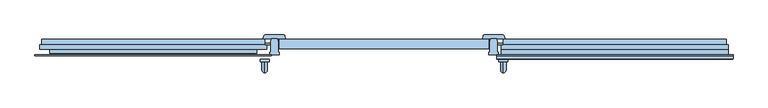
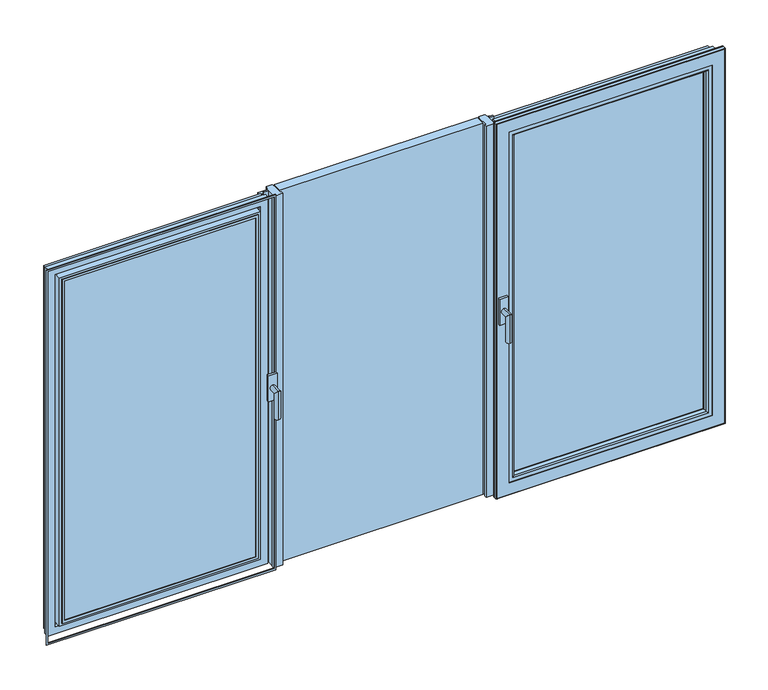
"""IFC4 building model written with IfcOpenShell, lengths in millimetres: window geometry, BZ1_Windows_Opening-Hinge_S9000_Three-Piece-Window-Turn-Tilt : Windows_Opening-Hinge_S9000_Three-Piece-Window-Turn-Tilt."""

from ifc_helpers import new_model, si_unit, frame, origin, place, context, project, spatial, polyline, circle_curve, ellipse_curve, outline, extrude, source, transform, mapped, element, save
from ifc_brep_helpers import plane_surface, cylinder_surface, advanced_brep


def window_99bb7202(model_context):
    return source(origin(), model_context, "Body", "SolidModel", [
        advanced_brep(
        [(495.3666667, -128.5, 1781.5), (495.3666667, -128.5, 1758.5), (495.3666667, -175.0, 1781.5), (495.3666667, -152.0, 1758.5), (495.3666667, -175.0, 1653.0), (495.3666667, -152.0, 1653.0)],
        [
            (0, 1, circle_curve(frame((495.3666667, -128.5, 1770.0), z_axis=(0.0, 1.0, 0.0), x_axis=(0.0, 0.0, -1.0)), 11.5)),
            (1, 0, circle_curve(frame((495.3666667, -128.5, 1770.0), z_axis=(0.0, 1.0, 0.0), x_axis=(0.0, 0.0, -1.0)), 11.5)),
            (0, 2),
            (2, 3, ellipse_curve(frame((495.3666667, -163.5, 1770.0), z_axis=(0.0, 0.7071067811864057, 0.7071067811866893), x_axis=(0.0, 0.7071067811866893, -0.7071067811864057)), 16.263456, 11.5)),
            (3, 1),
            (3, 2, ellipse_curve(frame((495.3666667, -163.5, 1770.0), z_axis=(0.0, 0.7071067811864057, 0.7071067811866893), x_axis=(0.0, 0.7071067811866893, -0.7071067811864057)), 16.263456, 11.5)),
            (4, 5, circle_curve(frame((495.3666667, -163.5, 1653.0), z_axis=(0.0, 0.0, -1.0), x_axis=(0.0, 1.0, 0.0)), 11.5)),
            (5, 4, circle_curve(frame((495.3666667, -163.5, 1653.0), z_axis=(0.0, 0.0, -1.0), x_axis=(0.0, 1.0, 0.0)), 11.5)),
            (2, 4),
            (5, 3),
        ],
        [
            plane_surface(frame((495.3666667, -128.5, 1770.0), z_axis=(0.0, 1.0, 0.0), x_axis=(1.0, 0.0, 0.0))),
            cylinder_surface(frame((495.3666667, -128.5, 1770.0), z_axis=(0.0, 1.0, 0.0), x_axis=(0.0, 0.0, -1.0)), 11.5),
            plane_surface(frame((495.3666667, -163.5, 1653.0), z_axis=(0.0, 0.0, -1.0), x_axis=(1.0, 0.0, 0.0))),
            cylinder_surface(frame((495.3666667, -163.5, 1770.0), z_axis=(0.0, 0.0, 1.0), x_axis=(0.0, 1.0, 0.0)), 11.5),
        ],
        [
            (0, [[1, 2]]),
            (1, [[-1, 3, 4, 5]]),
            (1, [[-2, -5, 6, -3]]),
            (2, [[7, 8]]),
            (3, [[-4, 9, -8, 10]]),
            (3, [[-6, -10, -7, -9]]),
        ],
    ),
        extrude(outline(polyline([(513.8666667, -118.5), (513.8666667, -128.5), (476.8666667, -128.5), (476.8666667, -118.5), (513.8666667, -118.5)])), frame((0.0, 0.0, 1711.0), z_axis=(0.0, 0.0, 1.0), x_axis=(1.0, 0.0, 0.0)), (0.0, 0.0, 1.0), 118.0),
        advanced_brep(
        [(-495.4, -128.5, 1781.5), (-495.4, -128.5, 1758.5), (-495.4, -175.0, 1781.5), (-495.4, -152.0, 1758.5), (-495.4, -175.0, 1653.0), (-495.4, -152.0, 1653.0)],
        [
            (0, 1, circle_curve(frame((-495.4, -128.5, 1770.0), z_axis=(0.0, 1.0, 0.0), x_axis=(0.0, 0.0, -1.0)), 11.5)),
            (1, 0, circle_curve(frame((-495.4, -128.5, 1770.0), z_axis=(0.0, 1.0, 0.0), x_axis=(0.0, 0.0, -1.0)), 11.5)),
            (0, 2),
            (2, 3, ellipse_curve(frame((-495.4, -163.5, 1770.0), z_axis=(0.0, 0.7071067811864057, 0.7071067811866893), x_axis=(0.0, 0.7071067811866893, -0.7071067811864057)), 16.263456, 11.5)),
            (3, 1),
            (3, 2, ellipse_curve(frame((-495.4, -163.5, 1770.0), z_axis=(0.0, 0.7071067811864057, 0.7071067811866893), x_axis=(0.0, 0.7071067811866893, -0.7071067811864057)), 16.263456, 11.5)),
            (4, 5, circle_curve(frame((-495.4, -163.5, 1653.0), z_axis=(0.0, 0.0, -1.0), x_axis=(0.0, 1.0, 0.0)), 11.5)),
            (5, 4, circle_curve(frame((-495.4, -163.5, 1653.0), z_axis=(0.0, 0.0, -1.0), x_axis=(0.0, 1.0, 0.0)), 11.5)),
            (2, 4),
            (5, 3),
        ],
        [
            plane_surface(frame((-495.4, -128.5, 1770.0), z_axis=(0.0, 1.0, 0.0), x_axis=(1.0, 0.0, 0.0))),
            cylinder_surface(frame((-495.4, -128.5, 1770.0), z_axis=(0.0, 1.0, 0.0), x_axis=(0.0, 0.0, -1.0)), 11.5),
            plane_surface(frame((-495.4, -163.5, 1653.0), z_axis=(0.0, 0.0, -1.0), x_axis=(1.0, 0.0, 0.0))),
            cylinder_surface(frame((-495.4, -163.5, 1770.0), z_axis=(0.0, 0.0, 1.0), x_axis=(0.0, 1.0, 0.0)), 11.5),
        ],
        [
            (0, [[1, 2]]),
            (1, [[-1, 3, 4, 5]]),
            (1, [[-2, -5, 6, -3]]),
            (2, [[7, 8]]),
            (3, [[-4, 9, -8, 10]]),
            (3, [[-6, -10, -7, -9]]),
        ],
    ),
        extrude(outline(polyline([(-476.9, -118.5), (-476.9, -128.5), (-513.9, -128.5), (-513.9, -118.5), (-476.9, -118.5)])), frame((0.0, 0.0, 1711.0), z_axis=(0.0, 0.0, 1.0), x_axis=(1.0, 0.0, 0.0)), (0.0, 0.0, 1.0), 118.0),
        extrude(outline(polyline([(-434.4, -36.0), (434.4, -36.0), (434.4, -76.0), (-434.4, -76.0), (-434.4, -36.0)])), frame((0.0, 0.0, 928.0), z_axis=(0.0, 0.0, 1.0), x_axis=(1.0, 0.0, 0.0)), (0.0, 0.0, 1.0), 1684.0),
        extrude(outline(polyline([(439.4, -46.5113286), (442.3781998, -32.5), (468.221801, -32.5), (471.2000009, -46.5113286), (471.2000009, -88.75), (475.3000009, -88.75), (475.3000009, -100.0), (435.3, -100.0), (435.3, -88.75), (439.4, -88.75), (439.4, -46.5113286)])), frame((0.0, 0.0, 928.0), z_axis=(0.0, 0.0, 1.0), x_axis=(1.0, 0.0, 0.0)), (0.0, 0.0, 1.0), 1684.0),
        advanced_brep(
        [(492.9521751, -17.5, 954.0), (498.7477301, -21.9470857, 954.0), (501.3000009, -31.47229, 954.0), (501.3, -32.5, 954.0), (409.3, -32.5, 954.0), (409.3, -31.47229, 954.0), (411.8522708, -21.9470857, 954.0), (417.6478258, -17.5, 954.0), (492.9521751, -17.5, 2586.0), (417.6478258, -17.5, 2586.0), (411.8522708, -21.9470857, 2586.0), (409.3, -31.47229, 2586.0), (409.3, -32.5, 2586.0), (501.3000009, -32.5, 2586.0), (501.3, -31.47229, 2586.0), (498.7477301, -21.9470857, 2586.0)],
        [
            (0, 1, circle_curve(frame((492.9521751, -23.5, 954.0), z_axis=(0.0, 0.0, -1.0), x_axis=(0.9659258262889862, 0.2588190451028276, 0.0)), 6.0)),
            (1, 2),
            (2, 3),
            (3, 4),
            (4, 5),
            (5, 6),
            (6, 7, circle_curve(frame((417.6478258, -23.5, 954.0), z_axis=(0.0, 0.0, -1.0), x_axis=(0.0, 1.0, 0.0)), 6.0)),
            (7, 0),
            (8, 9),
            (9, 10, circle_curve(frame((417.6478258, -23.5, 2586.0), z_axis=(0.0, 0.0, 1.0), x_axis=(0.0, 1.0, 0.0)), 6.0)),
            (10, 11),
            (11, 12),
            (12, 13),
            (13, 14),
            (14, 15),
            (15, 8, circle_curve(frame((492.9521751, -23.5, 2586.0), z_axis=(0.0, 0.0, 1.0), x_axis=(0.9659258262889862, 0.2588190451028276, 0.0)), 6.0)),
            (0, 8),
            (15, 1),
            (14, 2),
            (13, 3),
            (12, 4),
            (11, 5),
            (10, 6),
            (9, 7),
        ],
        [
            plane_surface(frame((455.3, -100.0, 954.0), z_axis=(0.0, 0.0, -1.0), x_axis=(1.0, 0.0, 0.0))),
            plane_surface(frame((455.3, -100.0, 2586.0), z_axis=(0.0, 0.0, 1.0), x_axis=(1.0, 0.0, 0.0))),
            cylinder_surface(frame((492.9521751, -23.5, 954.0), z_axis=(0.0, 0.0, -1.0000000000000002), x_axis=(0.9659258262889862, 0.2588190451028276, 0.0)), 6.0),
            plane_surface(frame((498.7477301, -21.9470857, 954.0), z_axis=(0.9659258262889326, 0.25881904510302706, 0.0), x_axis=(0.0, 0.0, 1.0))),
            plane_surface(frame((501.3, -31.47229, 954.0), z_axis=(1.0, 0.0, 0.0), x_axis=(0.0, 0.0, 1.0))),
            plane_surface(frame((417.1104076, -32.5, 954.0), z_axis=(0.0, -1.0, 0.0), x_axis=(0.0, 0.0, 1.0))),
            plane_surface(frame((409.3, -32.5, 954.0), z_axis=(-1.0, 0.0, 0.0), x_axis=(0.0, 0.0, 1.0))),
            plane_surface(frame((409.3, -31.47229, 954.0), z_axis=(-0.9659258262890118, 0.25881904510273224, 0.0), x_axis=(0.0, 0.0, 1.0))),
            cylinder_surface(frame((417.6478258, -23.5, 954.0), z_axis=(0.0, 0.0, -1.0), x_axis=(0.0, 1.0, 0.0)), 6.0),
            plane_surface(frame((417.6478258, -17.5, 954.0), z_axis=(0.0, 1.0, 0.0), x_axis=(0.0, 0.0, 1.0))),
        ],
        [
            (0, [[1, 2, 3, 4, 5, 6, 7, 8]]),
            (1, [[9, 10, 11, 12, 13, 14, 15, 16]]),
            (2, [[-1, 17, -16, 18]]),
            (3, [[-2, -18, -15, 19]]),
            (4, [[-3, -19, -14, 20]]),
            (5, [[-20, -13, 21, -4]]),
            (6, [[-5, -21, -12, 22]]),
            (7, [[-6, -22, -11, 23]]),
            (8, [[-7, -23, -10, 24]]),
            (9, [[-8, -24, -9, -17]]),
        ],
    ),
        extrude(outline(polyline([(-471.2, -46.5113286), (-468.2218002, -32.5), (-442.378199, -32.5), (-439.3999991, -46.5113286), (-439.3999991, -88.75), (-435.2999991, -88.75), (-435.2999991, -100.0), (-475.3, -100.0), (-475.3, -88.75), (-471.2, -88.75), (-471.2, -46.5113286)])), frame((0.0, 0.0, 928.0), z_axis=(0.0, 0.0, 1.0), x_axis=(1.0, 0.0, 0.0)), (0.0, 0.0, 1.0), 1684.0),
        advanced_brep(
        [(-417.6478249, -17.5, 954.0), (-411.8522699, -21.9470857, 954.0), (-409.2999991, -31.47229, 954.0), (-409.3, -32.5, 954.0), (-501.3, -32.5, 954.0), (-501.3, -31.47229, 954.0), (-498.7477292, -21.9470857, 954.0), (-492.9521742, -17.5, 954.0), (-417.6478249, -17.5, 2586.0), (-492.9521742, -17.5, 2586.0), (-498.7477292, -21.9470857, 2586.0), (-501.3, -31.47229, 2586.0), (-501.3, -32.5, 2586.0), (-409.2999991, -32.5, 2586.0), (-409.3, -31.47229, 2586.0), (-411.8522699, -21.9470857, 2586.0)],
        [
            (0, 1, circle_curve(frame((-417.6478249, -23.5, 954.0), z_axis=(0.0, 0.0, -1.0), x_axis=(0.9659258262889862, 0.2588190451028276, 0.0)), 6.0)),
            (1, 2),
            (2, 3),
            (3, 4),
            (4, 5),
            (5, 6),
            (6, 7, circle_curve(frame((-492.9521742, -23.5, 954.0), z_axis=(0.0, 0.0, -1.0), x_axis=(0.0, 1.0, 0.0)), 6.0)),
            (7, 0),
            (8, 9),
            (9, 10, circle_curve(frame((-492.9521742, -23.5, 2586.0), z_axis=(0.0, 0.0, 1.0), x_axis=(0.0, 1.0, 0.0)), 6.0)),
            (10, 11),
            (11, 12),
            (12, 13),
            (13, 14),
            (14, 15),
            (15, 8, circle_curve(frame((-417.6478249, -23.5, 2586.0), z_axis=(0.0, 0.0, 1.0), x_axis=(0.9659258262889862, 0.2588190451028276, 0.0)), 6.0)),
            (0, 8),
            (15, 1),
            (14, 2),
            (13, 3),
            (12, 4),
            (11, 5),
            (10, 6),
            (9, 7),
        ],
        [
            plane_surface(frame((-455.3, -100.0, 954.0), z_axis=(0.0, 0.0, -1.0), x_axis=(1.0, 0.0, 0.0))),
            plane_surface(frame((-455.3, -100.0, 2586.0), z_axis=(0.0, 0.0, 1.0), x_axis=(1.0, 0.0, 0.0))),
            cylinder_surface(frame((-417.6478249, -23.5, 954.0), z_axis=(0.0, 0.0, -1.0000000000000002), x_axis=(0.9659258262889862, 0.2588190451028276, 0.0)), 6.0),
            plane_surface(frame((-411.8522699, -21.9470857, 954.0), z_axis=(0.9659258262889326, 0.25881904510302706, 0.0), x_axis=(0.0, 0.0, 1.0))),
            plane_surface(frame((-409.3, -31.47229, 954.0), z_axis=(1.0, 0.0, 0.0), x_axis=(0.0, 0.0, 1.0))),
            plane_surface(frame((-493.4895924, -32.5, 954.0), z_axis=(0.0, -1.0, 0.0), x_axis=(0.0, 0.0, 1.0))),
            plane_surface(frame((-501.3, -32.5, 954.0), z_axis=(-1.0, 0.0, 0.0), x_axis=(0.0, 0.0, 1.0))),
            plane_surface(frame((-501.3, -31.47229, 954.0), z_axis=(-0.9659258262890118, 0.25881904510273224, 0.0), x_axis=(0.0, 0.0, 1.0))),
            cylinder_surface(frame((-492.9521742, -23.5, 954.0), z_axis=(0.0, 0.0, -1.0), x_axis=(0.0, 1.0, 0.0)), 6.0),
            plane_surface(frame((-492.9521742, -17.5, 954.0), z_axis=(0.0, 1.0, 0.0), x_axis=(0.0, 0.0, 1.0))),
        ],
        [
            (0, [[1, 2, 3, 4, 5, 6, 7, 8]]),
            (1, [[9, 10, 11, 12, 13, 14, 15, 16]]),
            (2, [[-1, 17, -16, 18]]),
            (3, [[-2, -18, -15, 19]]),
            (4, [[-3, -19, -14, 20]]),
            (5, [[-20, -13, 21, -4]]),
            (6, [[-5, -21, -12, 22]]),
            (7, [[-6, -22, -11, 23]]),
            (8, [[-7, -23, -10, 24]]),
            (9, [[-8, -24, -9, -17]]),
        ],
    ),
        extrude(outline(polyline([(492.3000009, -52.2), (492.3000009, -57.5), (471.2000009, -57.5), (471.2000009, -52.2), (492.3000009, -52.2)])), frame((0.0, 0.0, 928.0), z_axis=(0.0, 0.0, 1.0), x_axis=(1.0, 0.0, 0.0)), (0.0, 0.0, 1.0), 1684.0),
        extrude(outline(polyline([(-492.3, -52.2), (-471.2, -52.2), (-471.2, -57.5), (-492.3, -57.5), (-492.3, -52.2)])), frame((0.0, 0.0, 928.0), z_axis=(0.0, 0.0, 1.0), x_axis=(1.0, 0.0, 0.0)), (0.0, 0.0, 1.0), 1684.0),
        extrude(outline(polyline([(417.1, -36.0), (409.3, -36.0), (409.3, -32.5), (417.1, -32.5), (417.1, -36.0)])), frame((0.0, 0.0, 954.0), z_axis=(0.0, 0.0, 1.0), x_axis=(1.0, 0.0, 0.0)), (0.0, 0.0, 1.0), 1632.0),
        extrude(outline(polyline([(-417.0999991, -36.0), (-417.0999991, -32.5), (-409.2999991, -32.5), (-409.2999991, -36.0), (-417.0999991, -36.0)])), frame((0.0, 0.0, 954.0), z_axis=(0.0, 0.0, 1.0), x_axis=(1.0, 0.0, 0.0)), (0.0, 0.0, 1.0), 1632.0),
        extrude(outline(polyline([(528.4, -54.0), (1389.0, -54.0), (1389.0, -94.0), (528.4, -94.0), (528.4, -54.0)])), frame((0.0, 0.0, 980.9999996), z_axis=(0.0, 0.0, 1.0), x_axis=(1.0, 0.0, 0.0)), (0.0, 0.0, 1.0), 1578.0),
        extrude(outline(polyline([(2545.1999996, 1375.2), (2545.1999996, 542.2), (994.7999996, 542.2), (994.7999996, 1375.2), (2545.1999996, 1375.2)]), holes=[polyline([(1001.9999996, 1368.0), (1001.9999996, 549.4), (2537.9999996, 549.4), (2537.9999996, 1368.0), (1001.9999996, 1368.0)])]), frame((0.0, -54.0, 0.0), z_axis=(0.0, 1.0, 0.0), x_axis=(0.0, 0.0, 1.0)), (0.0, 0.0, 1.0), 3.0),
        extrude(outline(polyline([(2549.5012168, 1379.5012172), (2549.5012168, 537.8987828), (990.4987824, 537.8987828), (990.4987824, 1379.5012172), (2549.5012168, 1379.5012172)]), holes=[polyline([(1001.9987824, 1368.0012172), (1001.9987824, 549.3987828), (2538.0012168, 549.3987828), (2538.0012168, 1368.0012172), (1001.9987824, 1368.0012172)])]), frame((0.0, -96.5, 0.0), z_axis=(0.0, 1.0, 0.0), x_axis=(0.0, 0.0, 1.0)), (0.0, 0.0, 1.0), 2.5),
        extrude(outline(polyline([(919.9999996, 467.4), (919.9999996, 1450.0), (2619.9999996, 1450.0), (2619.9999996, 467.4), (919.9999996, 467.4)]), holes=[polyline([(2611.9999996, 475.4), (2611.9999996, 1442.0), (927.9999996, 1442.0), (927.9999996, 475.4), (2611.9999996, 475.4)])]), frame((0.0, -103.5, 0.0), z_axis=(0.0, 1.0, 0.0), x_axis=(0.0, 0.0, 1.0)), (0.0, 0.0, 1.0), 3.5),
        advanced_brep(
        [(541.0543275, -36.0, 2546.3456721), (546.8498824, -40.4470857, 2540.5501171), (546.8498824, -40.4470857, 999.449882), (541.0543275, -36.0, 993.6543271), (495.4, -57.5, 2591.9999996), (495.4, -36.0, 2591.9999996), (495.4, -36.0, 947.9999996), (495.4, -57.5, 947.9999996), (487.4, -77.5, 2599.9999996), (487.4, -57.5, 2599.9999996), (487.4, -57.5, 939.9999996), (487.4, -77.5, 939.9999996), (519.3, -65.0001206, 2568.0999996), (519.3, -77.5, 2568.0999996), (519.3, -77.5, 971.8999996), (519.3, -65.0001206, 971.8999996), (516.3241825, -51.0, 2571.0758171), (516.3241825, -51.0, 968.9241821), (549.4, -49.964254, 2537.9999996), (549.4, -51.0, 2537.9999996), (549.4, -51.0, 1001.9999996), (549.4, -49.964254, 1001.9999996), (1370.5501176, -40.4470857, 999.449882), (1376.3456725, -36.0, 993.6543271), (1422.0, -36.0, 947.9999996), (1422.0, -57.5, 947.9999996), (1430.0, -57.5, 939.9999996), (1430.0, -77.5, 939.9999996), (1398.1, -77.5, 971.8999996), (1398.1, -65.0001206, 971.8999996), (1401.0758175, -51.0, 968.9241821), (1368.0, -51.0, 1001.9999996), (1368.0, -49.964254, 1001.9999996), (1370.5501176, -40.4470857, 2540.5501171), (1376.3456725, -36.0, 2546.3456721), (1422.0, -36.0, 2591.9999996), (1422.0, -57.5, 2591.9999996), (1430.0, -57.5, 2599.9999996), (1430.0, -77.5, 2599.9999996), (1398.1, -77.5, 2568.0999996), (1398.1, -65.0001206, 2568.0999996), (1401.0758175, -51.0, 2571.0758171), (1368.0, -51.0, 2537.9999996), (1368.0, -49.964254, 2537.9999996)],
        [
            (0, 1, ellipse_curve(frame((541.0543275, -42.0, 2546.3456721), z_axis=(-0.7071067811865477, 0.0, -0.7071067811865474), x_axis=(-0.7071067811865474, 0.0, 0.7071067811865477)), 8.4852814, 6.0)),
            (1, 2),
            (2, 3, ellipse_curve(frame((541.0543275, -42.0, 993.6543271), z_axis=(-0.7071067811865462, 0.0, 0.707106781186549), x_axis=(0.7071067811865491, 0.0, 0.7071067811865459)), 8.4852814, 6.0)),
            (3, 0),
            (4, 5),
            (5, 6),
            (6, 7),
            (7, 4),
            (8, 9),
            (9, 10),
            (10, 11),
            (11, 8),
            (12, 13),
            (13, 14),
            (14, 15),
            (15, 12),
            (16, 12),
            (15, 17),
            (17, 16),
            (18, 19),
            (19, 20),
            (20, 21),
            (21, 18),
            (1, 18),
            (21, 2),
            (2, 22),
            (22, 23, ellipse_curve(frame((1376.3456725, -42.0, 993.6543271), z_axis=(-0.7071067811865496, 0.0, -0.7071067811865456), x_axis=(-0.7071067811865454, 0.0, 0.7071067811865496)), 8.4852814, 6.0)),
            (23, 3),
            (6, 24),
            (24, 25),
            (25, 7),
            (10, 26),
            (26, 27),
            (27, 11),
            (14, 28),
            (28, 29),
            (29, 15),
            (29, 30),
            (30, 17),
            (20, 31),
            (31, 32),
            (32, 21),
            (32, 22),
            (22, 33),
            (33, 34, ellipse_curve(frame((1376.3456725, -42.0, 2546.3456721), z_axis=(0.7071067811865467, 0.0, -0.7071067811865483), x_axis=(-0.7071067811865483, 0.0, -0.7071067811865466)), 8.4852814, 6.0)),
            (34, 23),
            (24, 35),
            (35, 36),
            (36, 25),
            (26, 37),
            (37, 38),
            (38, 27),
            (28, 39),
            (39, 40),
            (40, 29),
            (40, 41),
            (41, 30),
            (31, 42),
            (42, 43),
            (43, 32),
            (43, 33),
            (33, 1),
            (0, 34),
            (5, 35),
            (4, 36),
            (9, 37),
            (8, 38),
            (13, 39),
            (12, 40),
            (16, 41),
            (19, 42),
            (18, 43),
        ],
        [
            cylinder_surface(frame((541.0543275, -42.0, 2619.9999996), z_axis=(0.0, 0.0, 1.0), x_axis=(0.0, 1.0, 0.0)), 6.0),
            plane_surface(frame((495.4, -36.0, 2591.9999996), z_axis=(-1.0, 0.0, 0.0), x_axis=(0.0, 0.0, -1.0))),
            plane_surface(frame((487.4, -57.5, 2599.9999996), z_axis=(-1.0, 0.0, 0.0), x_axis=(0.0, 0.0, -1.0))),
            plane_surface(frame((519.3, -77.5, 2568.0999996), z_axis=(1.0, 0.0, 0.0), x_axis=(0.0, 0.0, -1.0))),
            plane_surface(frame((519.3, -65.0001206, 2568.0999996), z_axis=(0.9781476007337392, 0.20791169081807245, 0.0), x_axis=(0.0, 0.0, -1.0))),
            plane_surface(frame((549.4, -51.0, 2537.9999996), z_axis=(1.0, 0.0, 0.0), x_axis=(0.0, 0.0, -1.0))),
            plane_surface(frame((549.4, -49.964254, 2537.9999996), z_axis=(0.9659258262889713, 0.2588190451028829, 0.0), x_axis=(0.0, 0.0, -1.0))),
            cylinder_surface(frame((467.4, -42.0, 993.6543271), z_axis=(-1.0, 0.0, 0.0), x_axis=(0.0, 1.0, 0.0)), 6.0),
            plane_surface(frame((495.4, -36.0, 947.9999996), z_axis=(0.0, 0.0, -1.0), x_axis=(1.0, 0.0, 0.0))),
            plane_surface(frame((487.4, -57.5, 939.9999996), z_axis=(0.0, 0.0, -1.0), x_axis=(1.0, 0.0, 0.0))),
            plane_surface(frame((519.3, -77.5, 971.8999996), z_axis=(0.0, 0.0, 1.0), x_axis=(1.0, 0.0, 0.0))),
            plane_surface(frame((519.3, -65.0001206, 971.8999996), z_axis=(0.0, 0.20791169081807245, 0.9781476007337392), x_axis=(1.0, 0.0, 0.0))),
            plane_surface(frame((549.4, -51.0, 1001.9999996), z_axis=(0.0, 0.0, 1.0), x_axis=(1.0, 0.0, 0.0))),
            plane_surface(frame((549.4, -49.964254, 1001.9999996), z_axis=(0.0, 0.2588190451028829, 0.9659258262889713), x_axis=(1.0, 0.0, 0.0))),
            cylinder_surface(frame((1376.3456725, -42.0, 919.9999996), z_axis=(0.0, 0.0, -1.0), x_axis=(0.0, 1.0, 0.0)), 6.0),
            plane_surface(frame((1422.0, -36.0, 947.9999996), z_axis=(1.0, 0.0, 0.0), x_axis=(0.0, 0.0, 1.0))),
            plane_surface(frame((1430.0, -57.5, 939.9999996), z_axis=(1.0, 0.0, 0.0), x_axis=(0.0, 0.0, 1.0))),
            plane_surface(frame((1398.1, -77.5, 971.8999996), z_axis=(-1.0, 0.0, 0.0), x_axis=(0.0, 0.0, 1.0))),
            plane_surface(frame((1398.1, -65.0001206, 971.8999996), z_axis=(-0.9781476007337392, 0.20791169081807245, 0.0), x_axis=(0.0, 0.0, 1.0))),
            plane_surface(frame((1368.0, -51.0, 1001.9999996), z_axis=(-1.0, 0.0, 0.0), x_axis=(0.0, 0.0, 1.0))),
            plane_surface(frame((1368.0, -49.964254, 1001.9999996), z_axis=(-0.9659258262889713, 0.2588190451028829, 0.0), x_axis=(0.0, 0.0, 1.0))),
            cylinder_surface(frame((1450.0, -42.0, 2546.3456721), z_axis=(1.0, 0.0, 0.0), x_axis=(0.0, 1.0, 0.0)), 6.0),
            plane_surface(frame((1376.3456725, -36.0, 2546.3456721), z_axis=(0.0, 1.0, 0.0), x_axis=(-1.0, 0.0, 0.0))),
            plane_surface(frame((1422.0, -36.0, 2591.9999996), z_axis=(0.0, 0.0, 1.0), x_axis=(-1.0, 0.0, 0.0))),
            plane_surface(frame((1422.0, -57.5, 2591.9999996), z_axis=(0.0, 1.0, 0.0), x_axis=(-1.0, 0.0, 0.0))),
            plane_surface(frame((1430.0, -57.5, 2599.9999996), z_axis=(0.0, 0.0, 1.0), x_axis=(-1.0, 0.0, 0.0))),
            plane_surface(frame((1430.0, -77.5, 2599.9999996), z_axis=(0.0, -1.0, 0.0), x_axis=(-1.0, 0.0, 0.0))),
            plane_surface(frame((1398.1, -77.5, 2568.0999996), z_axis=(0.0, 0.0, -1.0), x_axis=(-1.0, 0.0, 0.0))),
            plane_surface(frame((1398.1, -65.0001206, 2568.0999996), z_axis=(0.0, 0.20791169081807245, -0.9781476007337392), x_axis=(-1.0, 0.0, 0.0))),
            plane_surface(frame((1369.0, -51.0, 2538.9999996), z_axis=(0.0, -1.0, 0.0), x_axis=(-1.0, 0.0, 0.0))),
            plane_surface(frame((1368.0, -51.0, 2537.9999996), z_axis=(0.0, 0.0, -1.0), x_axis=(-1.0, 0.0, 0.0))),
            plane_surface(frame((1368.0, -49.964254, 2537.9999996), z_axis=(0.0, 0.2588190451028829, -0.9659258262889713), x_axis=(-1.0, 0.0, 0.0))),
        ],
        [
            (0, [[1, 2, 3, 4]]),
            (1, [[5, 6, 7, 8]]),
            (2, [[9, 10, 11, 12]]),
            (3, [[13, 14, 15, 16]]),
            (4, [[17, -16, 18, 19]]),
            (5, [[20, 21, 22, 23]]),
            (6, [[24, -23, 25, -2]]),
            (7, [[-3, 26, 27, 28]]),
            (8, [[-7, 29, 30, 31]]),
            (9, [[-11, 32, 33, 34]]),
            (10, [[-15, 35, 36, 37]]),
            (11, [[-18, -37, 38, 39]]),
            (12, [[-22, 40, 41, 42]]),
            (13, [[-25, -42, 43, -26]]),
            (14, [[-27, 44, 45, 46]]),
            (15, [[-30, 47, 48, 49]]),
            (16, [[-33, 50, 51, 52]]),
            (17, [[-36, 53, 54, 55]]),
            (18, [[-38, -55, 56, 57]]),
            (19, [[-41, 58, 59, 60]]),
            (20, [[-43, -60, 61, -44]]),
            (21, [[-45, 62, -1, 63]]),
            (22, [[64, -47, -29, -6], [-28, -46, -63, -4]]),
            (23, [[-48, -64, -5, 65]]),
            (24, [[66, -50, -32, -10], [-31, -49, -65, -8]]),
            (25, [[-51, -66, -9, 67]]),
            (26, [[-34, -52, -67, -12], [68, -53, -35, -14]]),
            (27, [[-54, -68, -13, 69]]),
            (28, [[-56, -69, -17, 70]]),
            (29, [[-39, -57, -70, -19], [71, -58, -40, -21]]),
            (30, [[-59, -71, -20, 72]]),
            (31, [[-61, -72, -24, -62]]),
        ],
    ),
        advanced_brep(
        [(523.4, -107.25, 2563.9999996), (523.4, -118.5, 2563.9999996), (523.4, -118.5, 975.9999996), (523.4, -107.25, 975.9999996), (519.3, -77.5, 2568.0999996), (519.3, -107.25, 2568.0999996), (519.3, -107.25, 971.8999996), (519.3, -77.5, 971.8999996), (487.4, -103.5, 2599.9999996), (487.4, -77.5, 2599.9999996), (487.4, -77.5, 939.9999996), (487.4, -103.5, 939.9999996), (467.4, -116.0, 2619.9999996), (467.4, -103.5, 2619.9999996), (467.4, -103.5, 919.9999996), (467.4, -116.0, 919.9999996), (469.9, -118.5, 2617.4999996), (469.9, -118.5, 922.4999996), (1394.0, -118.5, 975.9999996), (1394.0, -107.25, 975.9999996), (1398.1, -107.25, 971.8999996), (1398.1, -77.5, 971.8999996), (1430.0, -77.5, 939.9999996), (1430.0, -103.5, 939.9999996), (1450.0, -103.5, 919.9999996), (1450.0, -116.0, 919.9999996), (1447.5, -118.5, 922.4999996), (1394.0, -118.5, 2563.9999996), (1394.0, -107.25, 2563.9999996), (1398.1, -107.25, 2568.0999996), (1398.1, -77.5, 2568.0999996), (1430.0, -77.5, 2599.9999996), (1430.0, -103.5, 2599.9999996), (1450.0, -103.5, 2619.9999996), (1450.0, -116.0, 2619.9999996), (1447.5, -118.5, 2617.4999996)],
        [
            (0, 1),
            (1, 2),
            (2, 3),
            (3, 0),
            (4, 5),
            (5, 6),
            (6, 7),
            (7, 4),
            (8, 9),
            (9, 10),
            (10, 11),
            (11, 8),
            (12, 13),
            (13, 14),
            (14, 15),
            (15, 12),
            (16, 12, ellipse_curve(frame((469.9, -116.0, 2617.4999996), z_axis=(-0.7071067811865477, 0.0, -0.7071067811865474), x_axis=(-0.7071067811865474, 0.0, 0.7071067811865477)), 3.5355339, 2.5)),
            (15, 17, ellipse_curve(frame((469.9, -116.0, 922.4999996), z_axis=(-0.7071067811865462, 0.0, 0.707106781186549), x_axis=(0.7071067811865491, 0.0, 0.7071067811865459)), 3.5355339, 2.5)),
            (17, 16),
            (2, 18),
            (18, 19),
            (19, 3),
            (6, 20),
            (20, 21),
            (21, 7),
            (10, 22),
            (22, 23),
            (23, 11),
            (14, 24),
            (24, 25),
            (25, 15),
            (25, 26, ellipse_curve(frame((1447.5, -116.0, 922.4999996), z_axis=(-0.7071067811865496, 0.0, -0.7071067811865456), x_axis=(-0.7071067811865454, 0.0, 0.7071067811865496)), 3.5355339, 2.5)),
            (26, 17),
            (18, 27),
            (27, 28),
            (28, 19),
            (20, 29),
            (29, 30),
            (30, 21),
            (22, 31),
            (31, 32),
            (32, 23),
            (24, 33),
            (33, 34),
            (34, 25),
            (34, 35, ellipse_curve(frame((1447.5, -116.0, 2617.4999996), z_axis=(0.7071067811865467, 0.0, -0.7071067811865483), x_axis=(-0.7071067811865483, 0.0, -0.7071067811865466)), 3.5355339, 2.5)),
            (35, 26),
            (35, 16),
            (1, 27),
            (0, 28),
            (5, 29),
            (4, 30),
            (9, 31),
            (8, 32),
            (13, 33),
            (12, 34),
        ],
        [
            plane_surface(frame((523.4, -118.5, 2563.9999996), z_axis=(1.0, 0.0, 0.0), x_axis=(0.0, 0.0, -1.0))),
            plane_surface(frame((519.3, -107.25, 2568.0999996), z_axis=(1.0, 0.0, 0.0), x_axis=(0.0, 0.0, -1.0))),
            plane_surface(frame((487.4, -77.5, 2599.9999996), z_axis=(-1.0, 0.0, 0.0), x_axis=(0.0, 0.0, -1.0))),
            plane_surface(frame((467.4, -103.5, 2619.9999996), z_axis=(-1.0, 0.0, 0.0), x_axis=(0.0, 0.0, -1.0))),
            cylinder_surface(frame((469.9, -116.0, 2619.9999996), z_axis=(0.0, 0.0, 1.0), x_axis=(0.0, -1.0, 0.0)), 2.5),
            plane_surface(frame((523.4, -118.5, 975.9999996), z_axis=(0.0, 0.0, 1.0), x_axis=(1.0, 0.0, 0.0))),
            plane_surface(frame((519.3, -107.25, 971.8999996), z_axis=(0.0, 0.0, 1.0), x_axis=(1.0, 0.0, 0.0))),
            plane_surface(frame((487.4, -77.5, 939.9999996), z_axis=(0.0, 0.0, -1.0), x_axis=(1.0, 0.0, 0.0))),
            plane_surface(frame((467.4, -103.5, 919.9999996), z_axis=(0.0, 0.0, -1.0), x_axis=(1.0, 0.0, 0.0))),
            cylinder_surface(frame((467.4, -116.0, 922.4999996), z_axis=(-1.0, 0.0, 0.0), x_axis=(0.0, -1.0, 0.0)), 2.5),
            plane_surface(frame((1394.0, -118.5, 975.9999996), z_axis=(-1.0, 0.0, 0.0), x_axis=(0.0, 0.0, 1.0))),
            plane_surface(frame((1398.1, -107.25, 971.8999996), z_axis=(-1.0, 0.0, 0.0), x_axis=(0.0, 0.0, 1.0))),
            plane_surface(frame((1430.0, -77.5, 939.9999996), z_axis=(1.0, 0.0, 0.0), x_axis=(0.0, 0.0, 1.0))),
            plane_surface(frame((1450.0, -103.5, 919.9999996), z_axis=(1.0, 0.0, 0.0), x_axis=(0.0, 0.0, 1.0))),
            cylinder_surface(frame((1447.5, -116.0, 919.9999996), z_axis=(0.0, 0.0, -1.0), x_axis=(0.0, -1.0, 0.0)), 2.5),
            plane_surface(frame((1447.5, -118.5, 2617.4999996), z_axis=(0.0, -1.0, 0.0), x_axis=(-1.0, 0.0, 0.0))),
            plane_surface(frame((1394.0, -118.5, 2563.9999996), z_axis=(0.0, 0.0, -1.0), x_axis=(-1.0, 0.0, 0.0))),
            plane_surface(frame((1394.0, -107.25, 2563.9999996), z_axis=(0.0, 1.0, 0.0), x_axis=(-1.0, 0.0, 0.0))),
            plane_surface(frame((1398.1, -107.25, 2568.0999996), z_axis=(0.0, 0.0, -1.0), x_axis=(-1.0, 0.0, 0.0))),
            plane_surface(frame((1398.1, -77.5, 2568.0999996), z_axis=(0.0, 1.0, 0.0), x_axis=(-1.0, 0.0, 0.0))),
            plane_surface(frame((1430.0, -77.5, 2599.9999996), z_axis=(0.0, 0.0, 1.0), x_axis=(-1.0, 0.0, 0.0))),
            plane_surface(frame((1449.0, -103.5, 2618.9999996), z_axis=(0.0, 1.0, 0.0), x_axis=(-1.0, 0.0, 0.0))),
            plane_surface(frame((1450.0, -103.5, 2619.9999996), z_axis=(0.0, 0.0, 1.0), x_axis=(-1.0, 0.0, 0.0))),
            cylinder_surface(frame((1450.0, -116.0, 2617.4999996), z_axis=(1.0, 0.0, 0.0), x_axis=(0.0, -1.0, 0.0)), 2.5),
        ],
        [
            (0, [[1, 2, 3, 4]]),
            (1, [[5, 6, 7, 8]]),
            (2, [[9, 10, 11, 12]]),
            (3, [[13, 14, 15, 16]]),
            (4, [[17, -16, 18, 19]]),
            (5, [[-3, 20, 21, 22]]),
            (6, [[-7, 23, 24, 25]]),
            (7, [[-11, 26, 27, 28]]),
            (8, [[-15, 29, 30, 31]]),
            (9, [[-18, -31, 32, 33]]),
            (10, [[-21, 34, 35, 36]]),
            (11, [[-24, 37, 38, 39]]),
            (12, [[-27, 40, 41, 42]]),
            (13, [[-30, 43, 44, 45]]),
            (14, [[-32, -45, 46, 47]]),
            (15, [[-33, -47, 48, -19], [49, -34, -20, -2]]),
            (16, [[-35, -49, -1, 50]]),
            (17, [[51, -37, -23, -6], [-22, -36, -50, -4]]),
            (18, [[-38, -51, -5, 52]]),
            (19, [[53, -40, -26, -10], [-25, -39, -52, -8]]),
            (20, [[-41, -53, -9, 54]]),
            (21, [[55, -43, -29, -14], [-28, -42, -54, -12]]),
            (22, [[-44, -55, -13, 56]]),
            (23, [[-46, -56, -17, -48]]),
        ],
    ),
        advanced_brep(
        [(545.5040168, -112.5529143, 2541.8959828), (539.7084619, -117.0, 2547.6915377), (539.7084619, -117.0, 992.3084614), (545.5040168, -112.5529143, 998.1040164), (549.3987828, -98.0174497, 2538.0012168), (549.3987828, -98.0174497, 1001.9987824), (549.3987828, -96.5, 2538.0012168), (549.3987828, -96.5, 1001.9987824), (536.2567747, -101.5, 2551.1432248), (537.5965207, -96.5, 2549.8034789), (537.5965207, -96.5, 990.1965203), (536.2567747, -101.5, 988.8567743), (523.4, -101.5, 2563.9999996), (523.4, -101.5, 975.9999996), (523.4, -117.0, 975.9999996), (523.4, -117.0, 2563.9999996), (1377.6915381, -117.0, 992.3084614), (1371.8959832, -112.5529143, 998.1040164), (1368.0012172, -98.0174497, 1001.9987824), (1368.0012172, -96.5, 1001.9987824), (1379.8034793, -96.5, 990.1965203), (1381.1432253, -101.5, 988.8567743), (1394.0, -101.5, 975.9999996), (1394.0, -117.0, 975.9999996), (1377.6915381, -117.0, 2547.6915377), (1371.8959832, -112.5529143, 2541.8959828), (1368.0012172, -98.0174497, 2538.0012168), (1368.0012172, -96.5, 2538.0012168), (1379.8034793, -96.5, 2549.8034789), (1381.1432253, -101.5, 2551.1432248), (1394.0, -101.5, 2563.9999996), (1394.0, -117.0, 2563.9999996)],
        [
            (0, 1, ellipse_curve(frame((539.7084619, -111.0, 2547.6915377), z_axis=(-0.7071067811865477, 0.0, -0.7071067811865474), x_axis=(-0.7071067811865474, 0.0, 0.7071067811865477)), 8.4852814, 6.0)),
            (1, 2),
            (2, 3, ellipse_curve(frame((539.7084619, -111.0, 992.3084614), z_axis=(-0.7071067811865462, 0.0, 0.707106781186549), x_axis=(0.7071067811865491, 0.0, 0.7071067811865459)), 8.4852814, 6.0)),
            (3, 0),
            (4, 0),
            (3, 5),
            (5, 4),
            (6, 4),
            (5, 7),
            (7, 6),
            (8, 9),
            (9, 10),
            (10, 11),
            (11, 8),
            (12, 13),
            (13, 14),
            (14, 15),
            (15, 12),
            (2, 16),
            (16, 17, ellipse_curve(frame((1377.6915381, -111.0, 992.3084614), z_axis=(-0.7071067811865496, 0.0, -0.7071067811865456), x_axis=(-0.7071067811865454, 0.0, 0.7071067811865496)), 8.4852814, 6.0)),
            (17, 3),
            (17, 18),
            (18, 5),
            (18, 19),
            (19, 7),
            (10, 20),
            (20, 21),
            (21, 11),
            (13, 22),
            (22, 23),
            (23, 14),
            (16, 24),
            (24, 25, ellipse_curve(frame((1377.6915381, -111.0, 2547.6915377), z_axis=(0.7071067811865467, 0.0, -0.7071067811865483), x_axis=(-0.7071067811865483, 0.0, -0.7071067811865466)), 8.4852814, 6.0)),
            (25, 17),
            (25, 26),
            (26, 18),
            (26, 27),
            (27, 19),
            (20, 28),
            (28, 29),
            (29, 21),
            (22, 30),
            (30, 31),
            (31, 23),
            (24, 1),
            (0, 25),
            (4, 26),
            (6, 27),
            (9, 28),
            (8, 29),
            (12, 30),
            (15, 31),
        ],
        [
            cylinder_surface(frame((539.7084619, -111.0, 2619.9999996), z_axis=(0.0, 0.0, 1.0), x_axis=(0.9659258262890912, -0.2588190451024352, 0.0)), 6.0),
            plane_surface(frame((545.5040168, -112.5529143, 2541.8959828), z_axis=(0.9659258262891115, -0.25881904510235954, 0.0), x_axis=(0.0, 0.0, -1.0))),
            plane_surface(frame((549.3987828, -98.0174497, 2538.0012168), z_axis=(1.0, 0.0, 0.0), x_axis=(0.0, 0.0, -1.0))),
            plane_surface(frame((537.5965207, -96.5, 2549.8034789), z_axis=(-0.9659258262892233, 0.2588190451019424, 0.0), x_axis=(0.0, 0.0, -1.0))),
            plane_surface(frame((523.4, -116.0, 2563.9999996), z_axis=(-1.0, 0.0, 0.0), x_axis=(0.0, 0.0, -1.0))),
            cylinder_surface(frame((467.4, -111.0, 992.3084614), z_axis=(-1.0, 0.0, 0.0), x_axis=(0.0, -0.2588190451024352, 0.9659258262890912)), 6.0),
            plane_surface(frame((545.5040168, -112.5529143, 998.1040164), z_axis=(0.0, -0.25881904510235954, 0.9659258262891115), x_axis=(1.0, 0.0, 0.0))),
            plane_surface(frame((549.3987828, -98.0174497, 1001.9987824), z_axis=(0.0, 0.0, 1.0), x_axis=(1.0, 0.0, 0.0))),
            plane_surface(frame((537.5965207, -96.5, 990.1965203), z_axis=(0.0, 0.2588190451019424, -0.9659258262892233), x_axis=(1.0, 0.0, 0.0))),
            plane_surface(frame((523.4, -116.0, 975.9999996), z_axis=(0.0, 0.0, -1.0), x_axis=(1.0, 0.0, 0.0))),
            cylinder_surface(frame((1377.6915381, -111.0, 919.9999996), z_axis=(0.0, 0.0, -1.0), x_axis=(-0.9659258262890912, -0.2588190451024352, 0.0)), 6.0),
            plane_surface(frame((1371.8959832, -112.5529143, 998.1040164), z_axis=(-0.9659258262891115, -0.25881904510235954, 0.0), x_axis=(0.0, 0.0, 1.0))),
            plane_surface(frame((1368.0012172, -98.0174497, 1001.9987824), z_axis=(-1.0, 0.0, 0.0), x_axis=(0.0, 0.0, 1.0))),
            plane_surface(frame((1379.8034793, -96.5, 990.1965203), z_axis=(0.9659258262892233, 0.2588190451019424, 0.0), x_axis=(0.0, 0.0, 1.0))),
            plane_surface(frame((1394.0, -116.0, 975.9999996), z_axis=(1.0, 0.0, 0.0), x_axis=(0.0, 0.0, 1.0))),
            cylinder_surface(frame((1450.0, -111.0, 2547.6915377), z_axis=(1.0, 0.0, 0.0), x_axis=(0.0, -0.2588190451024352, -0.9659258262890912)), 6.0),
            plane_surface(frame((1371.8959832, -112.5529143, 2541.8959828), z_axis=(0.0, -0.25881904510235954, -0.9659258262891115), x_axis=(-1.0, 0.0, 0.0))),
            plane_surface(frame((1368.0012172, -98.0174497, 2538.0012168), z_axis=(0.0, 0.0, -1.0), x_axis=(-1.0, 0.0, 0.0))),
            plane_surface(frame((1368.0012172, -96.5, 2538.0012168), z_axis=(0.0, 1.0, 0.0), x_axis=(-1.0, 0.0, 0.0))),
            plane_surface(frame((1379.8034793, -96.5, 2549.8034789), z_axis=(0.0, 0.2588190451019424, 0.9659258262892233), x_axis=(-1.0, 0.0, 0.0))),
            plane_surface(frame((1381.1432253, -101.5, 2551.1432248), z_axis=(0.0, 1.0, 0.0), x_axis=(-1.0, 0.0, 0.0))),
            plane_surface(frame((1394.0, -116.0, 2563.9999996), z_axis=(0.0, 0.0, 1.0), x_axis=(-1.0, 0.0, 0.0))),
            plane_surface(frame((1394.0, -117.0, 2563.9999996), z_axis=(0.0, -1.0, 0.0), x_axis=(-1.0, 0.0, 0.0))),
        ],
        [
            (0, [[1, 2, 3, 4]]),
            (1, [[5, -4, 6, 7]]),
            (2, [[8, -7, 9, 10]]),
            (3, [[11, 12, 13, 14]]),
            (4, [[15, 16, 17, 18]]),
            (5, [[-3, 19, 20, 21]]),
            (6, [[-6, -21, 22, 23]]),
            (7, [[-9, -23, 24, 25]]),
            (8, [[-13, 26, 27, 28]]),
            (9, [[-16, 29, 30, 31]]),
            (10, [[-20, 32, 33, 34]]),
            (11, [[-22, -34, 35, 36]]),
            (12, [[-24, -36, 37, 38]]),
            (13, [[-27, 39, 40, 41]]),
            (14, [[-30, 42, 43, 44]]),
            (15, [[-33, 45, -1, 46]]),
            (16, [[-35, -46, -5, 47]]),
            (17, [[-37, -47, -8, 48]]),
            (18, [[49, -39, -26, -12], [-25, -38, -48, -10]]),
            (19, [[-40, -49, -11, 50]]),
            (20, [[51, -42, -29, -15], [-28, -41, -50, -14]]),
            (21, [[-43, -51, -18, 52]]),
            (22, [[-31, -44, -52, -17], [-45, -32, -19, -2]]),
        ],
    ),
        extrude(outline(polyline([(-1389.0, -54.0), (-528.4, -54.0), (-528.4, -94.0), (-1389.0, -94.0), (-1389.0, -54.0)])), frame((0.0, 0.0, 980.9999996), z_axis=(0.0, 0.0, 1.0), x_axis=(1.0, 0.0, 0.0)), (0.0, 0.0, 1.0), 1578.0),
        extrude(outline(polyline([(2545.1999996, -1375.2), (994.7999996, -1375.2), (994.7999996, -542.2), (2545.1999996, -542.2), (2545.1999996, -1375.2)]), holes=[polyline([(2537.9999996, -549.4), (1001.9999996, -549.4), (1001.9999996, -1368.0), (2537.9999996, -1368.0), (2537.9999996, -549.4)])]), frame((0.0, -54.0, 0.0), z_axis=(0.0, 1.0, 0.0), x_axis=(0.0, 0.0, 1.0)), (0.0, 0.0, 1.0), 3.0),
        extrude(outline(polyline([(990.4987824, -1379.5012172), (990.4987824, -537.8987828), (2549.5012168, -537.8987828), (2549.5012168, -1379.5012172), (990.4987824, -1379.5012172)]), holes=[polyline([(2538.0012168, -1368.0012172), (2538.0012168, -549.3987828), (1001.9987824, -549.3987828), (1001.9987824, -1368.0012172), (2538.0012168, -1368.0012172)])]), frame((0.0, -96.5, 0.0), z_axis=(0.0, 1.0, 0.0), x_axis=(0.0, 0.0, 1.0)), (0.0, 0.0, 1.0), 2.5),
        extrude(outline(polyline([(919.9999996, -1450.0), (919.9999996, -467.4), (2619.9999996, -467.4), (2619.9999996, -1450.0), (919.9999996, -1450.0)]), holes=[polyline([(2611.9999996, -1442.0), (2611.9999996, -475.4), (927.9999996, -475.4), (927.9999996, -1442.0), (2611.9999996, -1442.0)])]), frame((0.0, -103.5, 0.0), z_axis=(0.0, 1.0, 0.0), x_axis=(0.0, 0.0, 1.0)), (0.0, 0.0, 1.0), 3.5),
        advanced_brep(
        [(-1376.3456725, -36.0, 2546.3456721), (-1370.5501176, -40.4470857, 2540.5501171), (-1370.5501176, -40.4470857, 999.449882), (-1376.3456725, -36.0, 993.6543271), (-1422.0, -57.5, 2591.9999996), (-1422.0, -36.0, 2591.9999996), (-1422.0, -36.0, 947.9999996), (-1422.0, -57.5, 947.9999996), (-1430.0, -77.5, 2599.9999996), (-1430.0, -57.5, 2599.9999996), (-1430.0, -57.5, 939.9999996), (-1430.0, -77.5, 939.9999996), (-1398.1, -65.0001206, 2568.0999996), (-1398.1, -77.5, 2568.0999996), (-1398.1, -77.5, 971.8999996), (-1398.1, -65.0001206, 971.8999996), (-1401.0758175, -51.0, 2571.0758171), (-1401.0758175, -51.0, 968.9241821), (-1368.0, -49.964254, 2537.9999996), (-1368.0, -51.0, 2537.9999996), (-1368.0, -51.0, 1001.9999996), (-1368.0, -49.964254, 1001.9999996), (-546.8498824, -40.4470857, 999.449882), (-541.0543275, -36.0, 993.6543271), (-495.4, -36.0, 947.9999996), (-495.4, -57.5, 947.9999996), (-487.4, -57.5, 939.9999996), (-487.4, -77.5, 939.9999996), (-519.3, -77.5, 971.8999996), (-519.3, -65.0001206, 971.8999996), (-516.3241825, -51.0, 968.9241821), (-549.4, -51.0, 1001.9999996), (-549.4, -49.964254, 1001.9999996), (-546.8498824, -40.4470857, 2540.5501171), (-541.0543275, -36.0, 2546.3456721), (-495.4, -36.0, 2591.9999996), (-495.4, -57.5, 2591.9999996), (-487.4, -57.5, 2599.9999996), (-487.4, -77.5, 2599.9999996), (-519.3, -77.5, 2568.0999996), (-519.3, -65.0001206, 2568.0999996), (-516.3241825, -51.0, 2571.0758171), (-549.4, -51.0, 2537.9999996), (-549.4, -49.964254, 2537.9999996)],
        [
            (0, 1, ellipse_curve(frame((-1376.3456725, -42.0, 2546.3456721), z_axis=(-0.707106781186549, 0.0, -0.7071067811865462), x_axis=(-0.7071067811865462, 0.0, 0.7071067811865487)), 8.4852814, 6.0)),
            (1, 2),
            (2, 3, ellipse_curve(frame((-1376.3456725, -42.0, 993.6543271), z_axis=(-0.7071067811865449, 0.0, 0.70710678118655), x_axis=(0.7071067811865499, 0.0, 0.707106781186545)), 8.4852814, 6.0)),
            (3, 0),
            (4, 5),
            (5, 6),
            (6, 7),
            (7, 4),
            (8, 9),
            (9, 10),
            (10, 11),
            (11, 8),
            (12, 13),
            (13, 14),
            (14, 15),
            (15, 12),
            (16, 12),
            (15, 17),
            (17, 16),
            (18, 19),
            (19, 20),
            (20, 21),
            (21, 18),
            (1, 18),
            (21, 2),
            (2, 22),
            (22, 23, ellipse_curve(frame((-541.0543275, -42.0, 993.6543271), z_axis=(-0.7071067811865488, 0.0, -0.7071067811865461), x_axis=(-0.7071067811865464, 0.0, 0.7071067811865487)), 8.4852814, 6.0)),
            (23, 3),
            (6, 24),
            (24, 25),
            (25, 7),
            (10, 26),
            (26, 27),
            (27, 11),
            (14, 28),
            (28, 29),
            (29, 15),
            (29, 30),
            (30, 17),
            (20, 31),
            (31, 32),
            (32, 21),
            (32, 22),
            (22, 33),
            (33, 34, ellipse_curve(frame((-541.0543275, -42.0, 2546.3456721), z_axis=(0.7071067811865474, 0.0, -0.7071067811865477), x_axis=(-0.7071067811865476, 0.0, -0.7071067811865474)), 8.4852814, 6.0)),
            (34, 23),
            (24, 35),
            (35, 36),
            (36, 25),
            (26, 37),
            (37, 38),
            (38, 27),
            (28, 39),
            (39, 40),
            (40, 29),
            (40, 41),
            (41, 30),
            (31, 42),
            (42, 43),
            (43, 32),
            (43, 33),
            (33, 1),
            (0, 34),
            (5, 35),
            (4, 36),
            (9, 37),
            (8, 38),
            (13, 39),
            (12, 40),
            (16, 41),
            (19, 42),
            (18, 43),
        ],
        [
            cylinder_surface(frame((-1376.3456725, -42.0, 2619.9999996), z_axis=(0.0, 0.0, 1.0), x_axis=(0.0, 1.0, 0.0)), 6.0),
            plane_surface(frame((-1422.0, -36.0, 2591.9999996), z_axis=(-1.0, 0.0, 0.0), x_axis=(0.0, 0.0, -1.0))),
            plane_surface(frame((-1430.0, -57.5, 2599.9999996), z_axis=(-1.0, 0.0, 0.0), x_axis=(0.0, 0.0, -1.0))),
            plane_surface(frame((-1398.1, -77.5, 2568.0999996), z_axis=(1.0, 0.0, 0.0), x_axis=(0.0, 0.0, -1.0))),
            plane_surface(frame((-1398.1, -65.0001206, 2568.0999996), z_axis=(0.9781476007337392, 0.20791169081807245, 0.0), x_axis=(0.0, 0.0, -1.0))),
            plane_surface(frame((-1368.0, -51.0, 2537.9999996), z_axis=(1.0, 0.0, 0.0), x_axis=(0.0, 0.0, -1.0))),
            plane_surface(frame((-1368.0, -49.964254, 2537.9999996), z_axis=(0.9659258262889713, 0.2588190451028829, 0.0), x_axis=(0.0, 0.0, -1.0))),
            cylinder_surface(frame((-1450.0, -42.0, 993.6543271), z_axis=(-1.0, 0.0, 0.0), x_axis=(0.0, 1.0, 0.0)), 6.0),
            plane_surface(frame((-1422.0, -36.0, 947.9999996), z_axis=(0.0, 0.0, -1.0), x_axis=(1.0, 0.0, 0.0))),
            plane_surface(frame((-1430.0, -57.5, 939.9999996), z_axis=(0.0, 0.0, -1.0), x_axis=(1.0, 0.0, 0.0))),
            plane_surface(frame((-1398.1, -77.5, 971.8999996), z_axis=(0.0, 0.0, 1.0), x_axis=(1.0, 0.0, 0.0))),
            plane_surface(frame((-1398.1, -65.0001206, 971.8999996), z_axis=(0.0, 0.20791169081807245, 0.9781476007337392), x_axis=(1.0, 0.0, 0.0))),
            plane_surface(frame((-1368.0, -51.0, 1001.9999996), z_axis=(0.0, 0.0, 1.0), x_axis=(1.0, 0.0, 0.0))),
            plane_surface(frame((-1368.0, -49.964254, 1001.9999996), z_axis=(0.0, 0.2588190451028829, 0.9659258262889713), x_axis=(1.0, 0.0, 0.0))),
            cylinder_surface(frame((-541.0543275, -42.0, 919.9999996), z_axis=(0.0, 0.0, -1.0), x_axis=(0.0, 1.0, 0.0)), 6.0),
            plane_surface(frame((-495.4, -36.0, 947.9999996), z_axis=(1.0, 0.0, 0.0), x_axis=(0.0, 0.0, 1.0))),
            plane_surface(frame((-487.4, -57.5, 939.9999996), z_axis=(1.0, 0.0, 0.0), x_axis=(0.0, 0.0, 1.0))),
            plane_surface(frame((-519.3, -77.5, 971.8999996), z_axis=(-1.0, 0.0, 0.0), x_axis=(0.0, 0.0, 1.0))),
            plane_surface(frame((-519.3, -65.0001206, 971.8999996), z_axis=(-0.9781476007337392, 0.20791169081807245, 0.0), x_axis=(0.0, 0.0, 1.0))),
            plane_surface(frame((-549.4, -51.0, 1001.9999996), z_axis=(-1.0, 0.0, 0.0), x_axis=(0.0, 0.0, 1.0))),
            plane_surface(frame((-549.4, -49.964254, 1001.9999996), z_axis=(-0.9659258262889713, 0.2588190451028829, 0.0), x_axis=(0.0, 0.0, 1.0))),
            cylinder_surface(frame((-467.4, -42.0, 2546.3456721), z_axis=(1.0, 0.0, 0.0), x_axis=(0.0, 1.0, 0.0)), 6.0),
            plane_surface(frame((-541.0543275, -36.0, 2546.3456721), z_axis=(0.0, 1.0, 0.0), x_axis=(-1.0, 0.0, 0.0))),
            plane_surface(frame((-495.4, -36.0, 2591.9999996), z_axis=(0.0, 0.0, 1.0), x_axis=(-1.0, 0.0, 0.0))),
            plane_surface(frame((-495.4, -57.5, 2591.9999996), z_axis=(0.0, 1.0, 0.0), x_axis=(-1.0, 0.0, 0.0))),
            plane_surface(frame((-487.4, -57.5, 2599.9999996), z_axis=(0.0, 0.0, 1.0), x_axis=(-1.0, 0.0, 0.0))),
            plane_surface(frame((-487.4, -77.5, 2599.9999996), z_axis=(0.0, -1.0, 0.0), x_axis=(-1.0, 0.0, 0.0))),
            plane_surface(frame((-519.3, -77.5, 2568.0999996), z_axis=(0.0, 0.0, -1.0), x_axis=(-1.0, 0.0, 0.0))),
            plane_surface(frame((-519.3, -65.0001206, 2568.0999996), z_axis=(0.0, 0.20791169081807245, -0.9781476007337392), x_axis=(-1.0, 0.0, 0.0))),
            plane_surface(frame((-548.4, -51.0, 2538.9999996), z_axis=(0.0, -1.0, 0.0), x_axis=(-1.0, 0.0, 0.0))),
            plane_surface(frame((-549.4, -51.0, 2537.9999996), z_axis=(0.0, 0.0, -1.0), x_axis=(-1.0, 0.0, 0.0))),
            plane_surface(frame((-549.4, -49.964254, 2537.9999996), z_axis=(0.0, 0.2588190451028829, -0.9659258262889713), x_axis=(-1.0, 0.0, 0.0))),
        ],
        [
            (0, [[1, 2, 3, 4]]),
            (1, [[5, 6, 7, 8]]),
            (2, [[9, 10, 11, 12]]),
            (3, [[13, 14, 15, 16]]),
            (4, [[17, -16, 18, 19]]),
            (5, [[20, 21, 22, 23]]),
            (6, [[24, -23, 25, -2]]),
            (7, [[-3, 26, 27, 28]]),
            (8, [[-7, 29, 30, 31]]),
            (9, [[-11, 32, 33, 34]]),
            (10, [[-15, 35, 36, 37]]),
            (11, [[-18, -37, 38, 39]]),
            (12, [[-22, 40, 41, 42]]),
            (13, [[-25, -42, 43, -26]]),
            (14, [[-27, 44, 45, 46]]),
            (15, [[-30, 47, 48, 49]]),
            (16, [[-33, 50, 51, 52]]),
            (17, [[-36, 53, 54, 55]]),
            (18, [[-38, -55, 56, 57]]),
            (19, [[-41, 58, 59, 60]]),
            (20, [[-43, -60, 61, -44]]),
            (21, [[-45, 62, -1, 63]]),
            (22, [[64, -47, -29, -6], [-28, -46, -63, -4]]),
            (23, [[-48, -64, -5, 65]]),
            (24, [[66, -50, -32, -10], [-31, -49, -65, -8]]),
            (25, [[-51, -66, -9, 67]]),
            (26, [[-34, -52, -67, -12], [68, -53, -35, -14]]),
            (27, [[-54, -68, -13, 69]]),
            (28, [[-56, -69, -17, 70]]),
            (29, [[-39, -57, -70, -19], [71, -58, -40, -21]]),
            (30, [[-59, -71, -20, 72]]),
            (31, [[-61, -72, -24, -62]]),
        ],
    ),
    ])


if __name__ == "__main__":
    model = new_model("IFC4")
    model_context = context("Model", 3, world=origin())
    ifc_project = project(units=[si_unit("LENGTHUNIT", "METRE", prefix="MILLI")], contexts=[model_context])
    site = spatial("IfcSite", under=ifc_project)
    building = spatial("IfcBuilding", under=site)
    placement = place(None, origin())
    window_shape = window_99bb7202(model_context)
    element("IfcWindow", 1, ObjectType="BZ1_Windows_Opening-Hinge_S9000_Three-Piece-Window-Turn-Tilt : Windows_Opening-Hinge_S9000_Three-Piece-Window-Turn-Tilt", at=placement, inside=building, context=model_context, shape_type="MappedRepresentation", body=[
        mapped(window_shape, transform((0.0, 0.0, 0.0), x_axis=(1.0, 0.0, 0.0), y_axis=(0.0, 1.0, 0.0), z_axis=(0.0, 0.0, 1.0))),
    ])
    save(model, "model.ifc")
